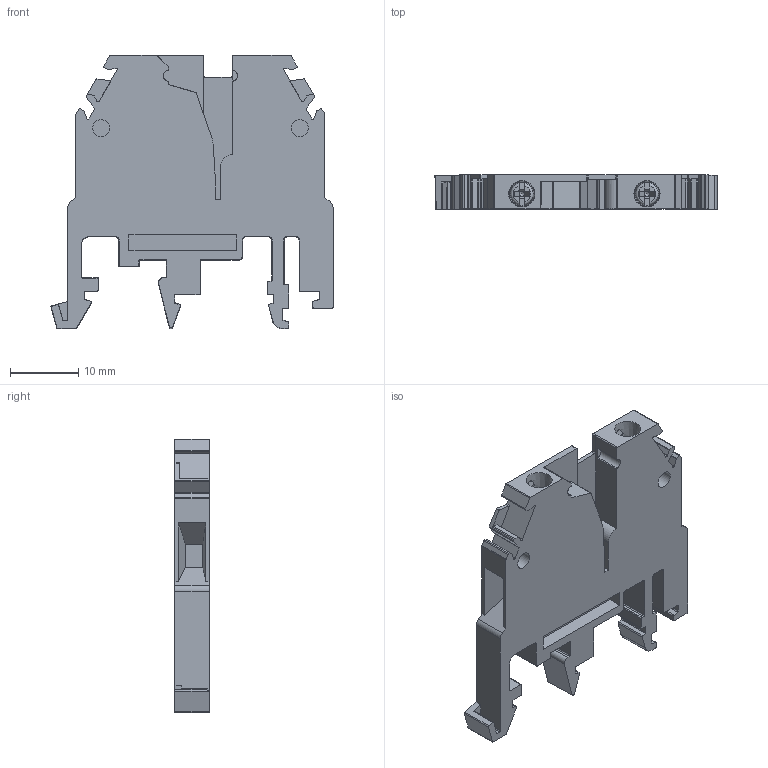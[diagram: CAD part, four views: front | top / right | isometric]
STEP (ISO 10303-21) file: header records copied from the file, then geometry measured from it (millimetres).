
FILE_DESCRIPTION(/* description */ ('Unknown'),/* implementation_level */ '2;1');
FILE_NAME(/* name */ 'RSA 2,5 A',/* time_stamp */ '2021-03-17T06:54:19+01:00',/* author */ ('Unknown'),/* organization */ ('Unknown'),/* preprocessor_version */ 'ST-DEVELOPER v16.7',/* originating_system */ 'Solid Edge',/* authorisation */ 'Unknown');
FILE_SCHEMA (('AUTOMOTIVE_DESIGN {1 0 10303 214 3 1 1}'));
Length unit declared in the file: millimetre
Products named in the file (1): RSA 2,5 A
Bounding box: 41.47 x 5 x 40.2 mm (x, y, z)
Volume: 4877.5 mm3; surface area: 4229.5 mm2
Topology: 1 solids, 1 shells, 349 faces, 964 edges, 631 vertices
Faces by surface type: plane 205, cylinder 121, torus 10, cone 8, bspline 4, sphere 1
Full cylindrical faces by diameter (mm): 0.002 x2, 2.5 x4, 3.6 x2
Entity records: 13462 total; most frequent: CARTESIAN_POINT 2018, DIRECTION 1909, ORIENTED_EDGE 1862, EDGE_CURVE 931, AXIS2_PLACEMENT_3D 656, VERTEX_POINT 621, LINE 597, VECTOR 597
